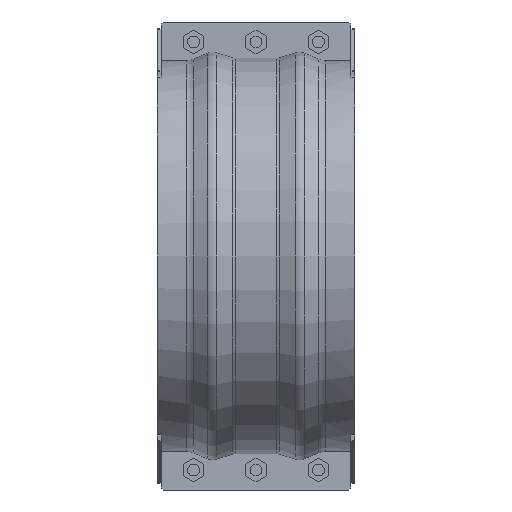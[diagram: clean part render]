
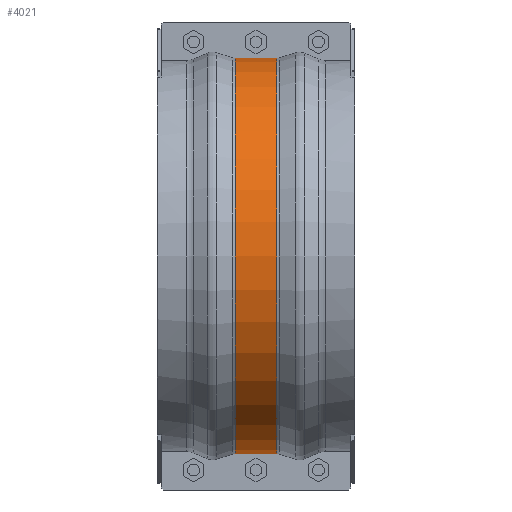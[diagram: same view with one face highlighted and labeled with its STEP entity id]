
A CAD part, front view. The second image highlights one B-rep face of the part: STEP entity #4021.
In plain terms, the highlighted cylindrical face has radius 317.802 mm (diameter 635.604 mm), a partial arc.
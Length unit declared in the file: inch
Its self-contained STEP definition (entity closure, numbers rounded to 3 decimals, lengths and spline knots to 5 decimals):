
#384=FACE_OUTER_BOUND('',#609,.T.);
#609=EDGE_LOOP('',(#3041,#3042,#3043,#3044));
#920=LINE('',#6221,#1293);
#922=LINE('',#6365,#1295);
#1293=VECTOR('',#4970,0.3937);
#1295=VECTOR('',#5024,0.3937);
#1535=CIRCLE('',#4305,12.51189);
#1537=CIRCLE('',#4309,12.51189);
#1796=VERTEX_POINT('',#6213);
#1797=VERTEX_POINT('',#6220);
#1812=VERTEX_POINT('',#6350);
#1814=VERTEX_POINT('',#6363);
#2243=EDGE_CURVE('',#1797,#1796,#920,.T.);
#2268=EDGE_CURVE('',#1812,#1797,#1535,.T.);
#2272=EDGE_CURVE('',#1814,#1796,#1537,.T.);
#2273=EDGE_CURVE('',#1814,#1812,#922,.T.);
#3041=ORIENTED_EDGE('',*,*,#2243,.T.);
#3042=ORIENTED_EDGE('',*,*,#2272,.F.);
#3043=ORIENTED_EDGE('',*,*,#2273,.T.);
#3044=ORIENTED_EDGE('',*,*,#2268,.T.);
#3688=CYLINDRICAL_SURFACE('',#4308,12.51189);
#4021=ADVANCED_FACE('',(#384),#3688,.T.);
#4305=AXIS2_PLACEMENT_3D('',#6351,#5013,#5014);
#4308=AXIS2_PLACEMENT_3D('',#6362,#5020,#5021);
#4309=AXIS2_PLACEMENT_3D('',#6364,#5022,#5023);
#4970=DIRECTION('',(1.,0.,0.));
#5013=DIRECTION('center_axis',(1.,0.,0.));
#5014=DIRECTION('ref_axis',(0.,0.,-1.));
#5020=DIRECTION('center_axis',(1.,0.,0.));
#5021=DIRECTION('ref_axis',(0.,-1.,0.));
#5022=DIRECTION('center_axis',(1.,0.,0.));
#5023=DIRECTION('ref_axis',(0.,0.,-1.));
#5024=DIRECTION('',(-1.,0.,0.));
#6213=CARTESIAN_POINT('',(1.31451,-0.375,-12.50627));
#6220=CARTESIAN_POINT('',(-1.31451,-0.375,-12.50627));
#6221=CARTESIAN_POINT('',(0.,-0.375,-12.50627));
#6350=CARTESIAN_POINT('',(-1.31451,-0.375,12.50627));
#6351=CARTESIAN_POINT('Origin',(-1.31451,0.,
0.));
#6362=CARTESIAN_POINT('Origin',(0.,0.,0.));
#6363=CARTESIAN_POINT('',(1.31451,-0.375,12.50627));
#6364=CARTESIAN_POINT('Origin',(1.31451,0.,0.));
#6365=CARTESIAN_POINT('',(0.,-0.375,12.50627));
